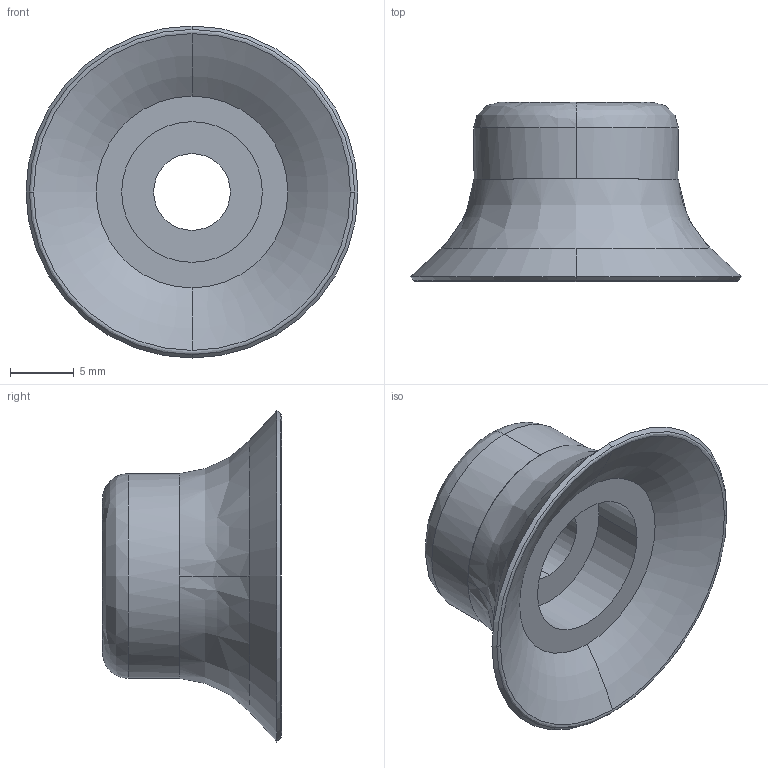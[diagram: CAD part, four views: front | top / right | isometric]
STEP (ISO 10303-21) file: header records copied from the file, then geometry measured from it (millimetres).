
FILE_DESCRIPTION (( 'STEP AP214' ), '1' );
FILE_NAME ('VS-PG25.STEP', '2019-11-13T07:48:01', ( '微软用户' ), ( '微软中国' ), 'SwSTEP 2.0', 'SolidWorks 2016', '' );
FILE_SCHEMA (( 'AUTOMOTIVE_DESIGN' ));
Length unit declared in the file: millimetre
Products named in the file (1): VS-PG25
Bounding box: 25.97 x 14 x 25.97 mm (x, y, z)
Volume: 2219 mm3; surface area: 1852 mm2
Topology: 1 solids, 1 shells, 22 faces, 50 edges, 32 vertices
Faces by surface type: cylinder 6, bspline 6, cone 4, plane 4, torus 2
Entity records: 948 total; most frequent: CARTESIAN_POINT 435, DIRECTION 104, ORIENTED_EDGE 100, EDGE_CURVE 50, AXIS2_PLACEMENT_3D 47, VERTEX_POINT 32, CIRCLE 30, EDGE_LOOP 26
